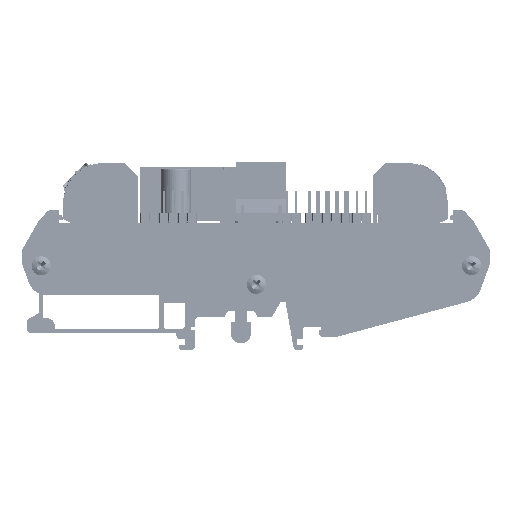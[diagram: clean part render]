
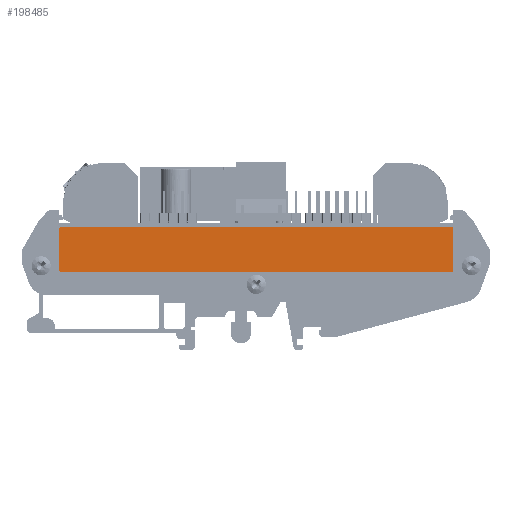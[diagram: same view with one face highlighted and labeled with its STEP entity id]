
A CAD part, left-side view. The second image highlights one B-rep face of the part: STEP entity #198485.
In plain terms, the highlighted planar face has unit normal (-1, 0, 0).
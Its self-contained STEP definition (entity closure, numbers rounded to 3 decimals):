
#6228=PLANE('',#212149);
#17319=FACE_OUTER_BOUND('',#27714,.T.);
#27714=EDGE_LOOP('',(#151167,#151168,#151169,#151170,#151171,#151172,#151173,
#151174));
#41736=LINE('',#372827,#59891);
#41737=LINE('',#372831,#59892);
#41738=LINE('',#372835,#59893);
#41739=LINE('',#372839,#59894);
#59891=VECTOR('',#246262,10.);
#59892=VECTOR('',#246265,10.);
#59893=VECTOR('',#246268,10.);
#59894=VECTOR('',#246271,10.);
#73738=CIRCLE('',#212150,0.5);
#73739=CIRCLE('',#212151,0.5);
#73740=CIRCLE('',#212152,0.5);
#73741=CIRCLE('',#212153,0.5);
#87379=VERTEX_POINT('',#372825);
#87380=VERTEX_POINT('',#372826);
#87381=VERTEX_POINT('',#372828);
#87382=VERTEX_POINT('',#372830);
#87383=VERTEX_POINT('',#372832);
#87384=VERTEX_POINT('',#372834);
#87385=VERTEX_POINT('',#372836);
#87386=VERTEX_POINT('',#372838);
#110591=EDGE_CURVE('',#87379,#87380,#41736,.T.);
#110592=EDGE_CURVE('',#87381,#87380,#73738,.T.);
#110593=EDGE_CURVE('',#87381,#87382,#41737,.T.);
#110594=EDGE_CURVE('',#87383,#87382,#73739,.T.);
#110595=EDGE_CURVE('',#87383,#87384,#41738,.T.);
#110596=EDGE_CURVE('',#87385,#87384,#73740,.T.);
#110597=EDGE_CURVE('',#87385,#87386,#41739,.T.);
#110598=EDGE_CURVE('',#87379,#87386,#73741,.T.);
#151167=ORIENTED_EDGE('',*,*,#110591,.T.);
#151168=ORIENTED_EDGE('',*,*,#110592,.F.);
#151169=ORIENTED_EDGE('',*,*,#110593,.T.);
#151170=ORIENTED_EDGE('',*,*,#110594,.F.);
#151171=ORIENTED_EDGE('',*,*,#110595,.T.);
#151172=ORIENTED_EDGE('',*,*,#110596,.F.);
#151173=ORIENTED_EDGE('',*,*,#110597,.T.);
#151174=ORIENTED_EDGE('',*,*,#110598,.F.);
#198485=ADVANCED_FACE('',(#17319),#6228,.T.);
#212149=AXIS2_PLACEMENT_3D('',#372824,#246260,#246261);
#212150=AXIS2_PLACEMENT_3D('',#372829,#246263,#246264);
#212151=AXIS2_PLACEMENT_3D('',#372833,#246266,#246267);
#212152=AXIS2_PLACEMENT_3D('',#372837,#246269,#246270);
#212153=AXIS2_PLACEMENT_3D('',#372840,#246272,#246273);
#246260=DIRECTION('center_axis',(-1.,0.,0.));
#246261=DIRECTION('ref_axis',(0.,0.,1.));
#246262=DIRECTION('',(0.,0.,-1.));
#246263=DIRECTION('center_axis',(1.,0.,0.));
#246264=DIRECTION('ref_axis',(0.,1.,0.));
#246265=DIRECTION('',(0.,-1.,0.));
#246266=DIRECTION('center_axis',(1.,0.,0.));
#246267=DIRECTION('ref_axis',(0.,0.,
-1.));
#246268=DIRECTION('',(0.,0.,1.));
#246269=DIRECTION('center_axis',(1.,0.,0.));
#246270=DIRECTION('ref_axis',(0.,-1.,0.));
#246271=DIRECTION('',(0.,1.,0.));
#246272=DIRECTION('center_axis',(1.,0.,0.));
#246273=DIRECTION('ref_axis',(0.,0.,1.));
#372824=CARTESIAN_POINT('Origin',(-0.947,53.756,-13.201));
#372825=CARTESIAN_POINT('',(-0.947,106.656,-1.7));
#372826=CARTESIAN_POINT('',(-0.947,106.656,-12.7));
#372827=CARTESIAN_POINT('',(-0.947,106.656,-1.7));
#372828=CARTESIAN_POINT('',(-0.947,106.156,-13.2));
#372829=CARTESIAN_POINT('Origin',(-0.947,106.156,-12.7));
#372830=CARTESIAN_POINT('',(-0.947,1.356,-13.2));
#372831=CARTESIAN_POINT('',(-0.947,106.156,-13.2));
#372832=CARTESIAN_POINT('',(-0.947,0.856,-12.7));
#372833=CARTESIAN_POINT('Origin',(-0.947,1.356,-12.7));
#372834=CARTESIAN_POINT('',(-0.947,0.856,-1.7));
#372835=CARTESIAN_POINT('',(-0.947,0.856,-12.7));
#372836=CARTESIAN_POINT('',(-0.947,1.356,-1.2));
#372837=CARTESIAN_POINT('Origin',(-0.947,1.356,-1.7));
#372838=CARTESIAN_POINT('',(-0.947,106.156,-1.2));
#372839=CARTESIAN_POINT('',(-0.947,1.356,-1.2));
#372840=CARTESIAN_POINT('Origin',(-0.947,106.156,-1.7));
